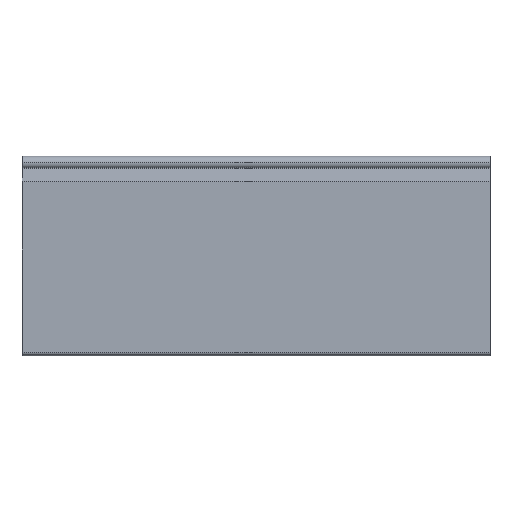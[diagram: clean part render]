
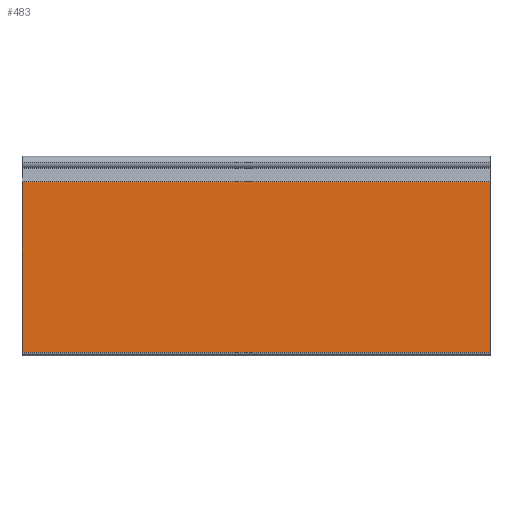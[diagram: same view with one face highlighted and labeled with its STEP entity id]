
A CAD part, top view. The second image highlights one B-rep face of the part: STEP entity #483.
In plain terms, the highlighted planar face has unit normal (0, 0, 1).
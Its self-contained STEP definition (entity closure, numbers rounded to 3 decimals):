
#152 = VECTOR ( 'NONE', #336, 1000. ) ;
#155 = LINE ( 'NONE', #327, #152 ) ;
#178 = LINE ( 'NONE', #360, #179 ) ;
#179 = VECTOR ( 'NONE', #361, 1000. ) ;
#180 = LINE ( 'NONE', #362, #181 ) ;
#181 = VECTOR ( 'NONE', #363, 1000. ) ;
#242 = EDGE_CURVE ( 'NONE', #551, #540, #771, .T. ) ;
#327 = CARTESIAN_POINT ( 'NONE',  ( -150., -12.164, 4.05 ) ) ;
#336 = DIRECTION ( 'NONE',  ( 0., -1., 0. ) ) ;
#360 = CARTESIAN_POINT ( 'NONE',  ( 150., -12.164, 4.05 ) ) ;
#361 = DIRECTION ( 'NONE',  ( -1., 0., 0. ) ) ;
#362 = CARTESIAN_POINT ( 'NONE',  ( 150., -121.663, 4.05 ) ) ;
#363 = DIRECTION ( 'NONE',  ( -1., 0., 0. ) ) ;
#438 = CARTESIAN_POINT ( 'NONE',  ( -150., -121.663, 4.05 ) ) ;
#483 = ADVANCED_FACE ( 'NONE', ( #847 ), #1179, .F. ) ;
#522 = VERTEX_POINT ( 'NONE', #1279 ) ;
#540 = VERTEX_POINT ( 'NONE', #1294 ) ;
#551 = VERTEX_POINT ( 'NONE', #1305 ) ;
#675 = ORIENTED_EDGE ( 'NONE', *, *, #901, .T. ) ;
#676 = ORIENTED_EDGE ( 'NONE', *, *, #242, .F. ) ;
#677 = ORIENTED_EDGE ( 'NONE', *, *, #902, .F. ) ;
#678 = ORIENTED_EDGE ( 'NONE', *, *, #889, .T. ) ;
#756 = EDGE_LOOP ( 'NONE', ( #678, #677, #676, #675 ) ) ;
#771 = LINE ( 'NONE', #1026, #773 ) ;
#773 = VECTOR ( 'NONE', #1034, 1000. ) ;
#847 = FACE_OUTER_BOUND ( 'NONE', #756, .T. ) ;
#889 = EDGE_CURVE ( 'NONE', #522, #1012, #155, .T. ) ;
#901 = EDGE_CURVE ( 'NONE', #551, #522, #178, .T. ) ;
#902 = EDGE_CURVE ( 'NONE', #540, #1012, #180, .T. ) ;
#972 = AXIS2_PLACEMENT_3D ( 'NONE', #1182, #1188, #1189 ) ;
#1012 = VERTEX_POINT ( 'NONE', #438 ) ;
#1026 = CARTESIAN_POINT ( 'NONE',  ( 150., -12.164, 4.05 ) ) ;
#1034 = DIRECTION ( 'NONE',  ( 0., -1., 0. ) ) ;
#1179 = PLANE ( 'NONE',  #972 ) ;
#1182 = CARTESIAN_POINT ( 'NONE',  ( 150., -12.164, 4.05 ) ) ;
#1188 = DIRECTION ( 'NONE',  ( 0., 0., -1. ) ) ;
#1189 = DIRECTION ( 'NONE',  ( 0., 1., 0. ) ) ;
#1279 = CARTESIAN_POINT ( 'NONE',  ( -150., -12.164, 4.05 ) ) ;
#1294 = CARTESIAN_POINT ( 'NONE',  ( 150., -121.663, 4.05 ) ) ;
#1305 = CARTESIAN_POINT ( 'NONE',  ( 150., -12.164, 4.05 ) ) ;
